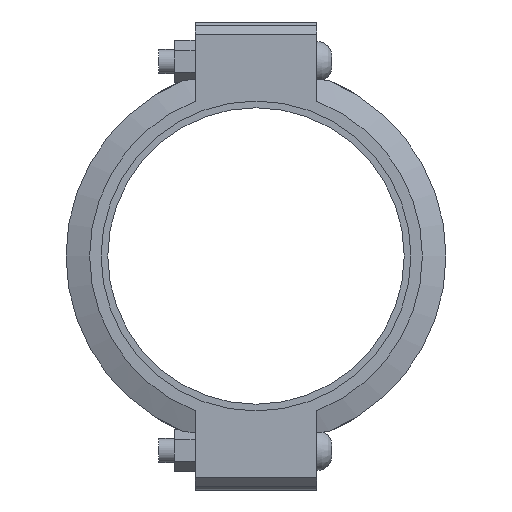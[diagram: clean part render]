
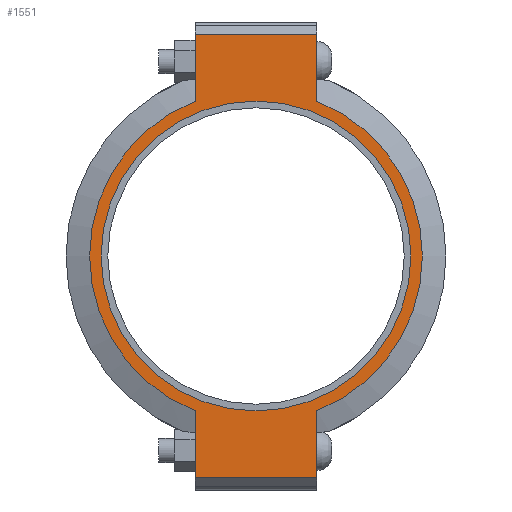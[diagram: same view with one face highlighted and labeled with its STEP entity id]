
A CAD part, left-side view. The second image highlights one B-rep face of the part: STEP entity #1551.
In plain terms, the highlighted planar face has unit normal (-1, 0, 0) as drawn and (0, 0, 1) by its records, which use the part's own axes.
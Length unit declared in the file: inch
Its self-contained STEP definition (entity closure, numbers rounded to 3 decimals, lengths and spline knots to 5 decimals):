
#178=LINE('',#2645,#265);
#189=LINE('',#2696,#276);
#195=LINE('',#2722,#282);
#197=LINE('',#2725,#284);
#198=LINE('',#2730,#285);
#199=LINE('',#2731,#286);
#265=VECTOR('',#2135,0.3937);
#276=VECTOR('',#2166,0.3937);
#282=VECTOR('',#2184,0.3937);
#284=VECTOR('',#2188,0.3937);
#285=VECTOR('',#2193,0.3937);
#286=VECTOR('',#2194,0.3937);
#344=FACE_BOUND('',#503,.T.);
#404=FACE_OUTER_BOUND('',#502,.T.);
#502=EDGE_LOOP('',(#1240,#1241,#1242,#1243,#1244,#1245,#1246,#1247));
#503=EDGE_LOOP('',(#1248));
#608=CIRCLE('',#1796,6.84375);
#609=CIRCLE('',#1797,6.84375);
#610=CIRCLE('',#1798,6.375);
#717=VERTEX_POINT('',#2642);
#718=VERTEX_POINT('',#2644);
#735=VERTEX_POINT('',#2691);
#736=VERTEX_POINT('',#2695);
#743=VERTEX_POINT('',#2717);
#744=VERTEX_POINT('',#2721);
#745=VERTEX_POINT('',#2727);
#746=VERTEX_POINT('',#2729);
#747=VERTEX_POINT('',#2733);
#887=EDGE_CURVE('',#718,#717,#178,.T.);
#908=EDGE_CURVE('',#736,#735,#189,.T.);
#919=EDGE_CURVE('',#744,#743,#195,.T.);
#921=EDGE_CURVE('',#744,#717,#197,.T.);
#922=EDGE_CURVE('',#743,#745,#608,.T.);
#923=EDGE_CURVE('',#745,#746,#198,.T.);
#924=EDGE_CURVE('',#736,#746,#199,.T.);
#925=EDGE_CURVE('',#735,#718,#609,.T.);
#926=EDGE_CURVE('',#747,#747,#610,.T.);
#1240=ORIENTED_EDGE('',*,*,#921,.F.);
#1241=ORIENTED_EDGE('',*,*,#919,.T.);
#1242=ORIENTED_EDGE('',*,*,#922,.T.);
#1243=ORIENTED_EDGE('',*,*,#923,.T.);
#1244=ORIENTED_EDGE('',*,*,#924,.F.);
#1245=ORIENTED_EDGE('',*,*,#908,.T.);
#1246=ORIENTED_EDGE('',*,*,#925,.T.);
#1247=ORIENTED_EDGE('',*,*,#887,.T.);
#1248=ORIENTED_EDGE('',*,*,#926,.T.);
#1403=PLANE('',#1795);
#1551=ADVANCED_FACE('',(#404,#344),#1403,.T.);
#1795=AXIS2_PLACEMENT_3D('',#2726,#2189,#2190);
#1796=AXIS2_PLACEMENT_3D('',#2728,#2191,#2192);
#1797=AXIS2_PLACEMENT_3D('',#2732,#2195,#2196);
#1798=AXIS2_PLACEMENT_3D('',#2734,#2197,#2198);
#2135=DIRECTION('',(-1.,0.,0.));
#2166=DIRECTION('',(-1.,0.,0.));
#2184=DIRECTION('',(1.,0.,0.));
#2188=DIRECTION('',(0.,1.,0.));
#2189=DIRECTION('center_axis',(0.,0.,1.));
#2190=DIRECTION('ref_axis',(1.,0.,0.));
#2191=DIRECTION('center_axis',(0.,0.,1.));
#2192=DIRECTION('ref_axis',(-1.,0.,0.));
#2193=DIRECTION('',(1.,0.,0.));
#2194=DIRECTION('',(0.,-1.,0.));
#2195=DIRECTION('center_axis',(0.,0.,1.));
#2196=DIRECTION('ref_axis',(-1.,0.,0.));
#2197=DIRECTION('center_axis',(0.,0.,-1.));
#2198=DIRECTION('ref_axis',(-1.,0.,0.));
#2642=CARTESIAN_POINT('',(-9.125,2.5,1.315));
#2644=CARTESIAN_POINT('',(-6.37079,2.5,1.315));
#2645=CARTESIAN_POINT('',(9.625,2.5,1.315));
#2691=CARTESIAN_POINT('',(6.37079,2.5,1.315));
#2695=CARTESIAN_POINT('',(9.125,2.5,1.315));
#2696=CARTESIAN_POINT('',(9.625,2.5,1.315));
#2717=CARTESIAN_POINT('',(-6.37079,-2.5,1.315));
#2721=CARTESIAN_POINT('',(-9.125,-2.5,1.315));
#2722=CARTESIAN_POINT('',(-9.625,-2.5,1.315));
#2725=CARTESIAN_POINT('',(-9.125,1.25,1.315));
#2726=CARTESIAN_POINT('Origin',(0.,0.,
1.315));
#2727=CARTESIAN_POINT('',(6.37079,-2.5,1.315));
#2728=CARTESIAN_POINT('Origin',(0.,0.,1.315));
#2729=CARTESIAN_POINT('',(9.125,-2.5,1.315));
#2730=CARTESIAN_POINT('',(-9.625,-2.5,1.315));
#2731=CARTESIAN_POINT('',(9.125,-1.25,1.315));
#2732=CARTESIAN_POINT('Origin',(0.,0.,1.315));
#2733=CARTESIAN_POINT('',(6.375,0.,1.315));
#2734=CARTESIAN_POINT('Origin',(0.,0.,1.315));
